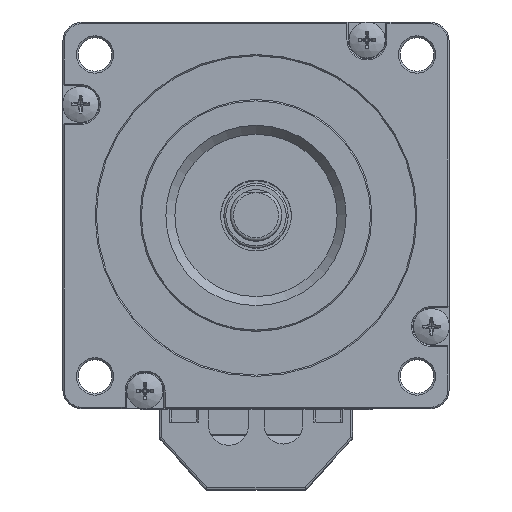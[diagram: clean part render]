
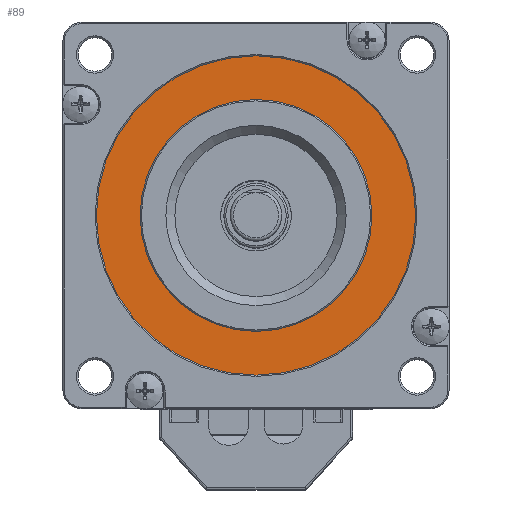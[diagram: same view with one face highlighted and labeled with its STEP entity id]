
A CAD part, top view. The second image highlights one B-rep face of the part: STEP entity #89.
In plain terms, the highlighted planar face has unit normal (0, 0, 1).
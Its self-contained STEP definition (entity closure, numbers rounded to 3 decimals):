
#89 = ADVANCED_FACE ( 'NONE', ( #3777, #18435 ), #7047, .T. ) ;
#713 = DIRECTION ( 'NONE',  ( 1., 0., 0. ) ) ;
#944 = DIRECTION ( 'NONE',  ( 0., 0., 1. ) ) ;
#1097 = CARTESIAN_POINT ( 'NONE',  ( 0., 0., 10.8 ) ) ;
#1382 = CIRCLE ( 'NONE', #3328, 18. ) ;
#2209 = CARTESIAN_POINT ( 'NONE',  ( 24.8, 0., 10.8 ) ) ;
#2782 = ORIENTED_EDGE ( 'NONE', *, *, #16313, .F. ) ;
#3328 = AXIS2_PLACEMENT_3D ( 'NONE', #1097, #944, #16928 ) ;
#3777 = FACE_BOUND ( 'NONE', #21143, .T. ) ;
#3783 = AXIS2_PLACEMENT_3D ( 'NONE', #4260, #16844, #713 ) ;
#3918 = VERTEX_POINT ( 'NONE', #2209 ) ;
#4260 = CARTESIAN_POINT ( 'NONE',  ( 0., 0., 10.8 ) ) ;
#4318 = EDGE_CURVE ( 'NONE', #3918, #3918, #17370, .T. ) ;
#6653 = DIRECTION ( 'NONE',  ( 1., 0., 0. ) ) ;
#7047 = PLANE ( 'NONE',  #7354 ) ;
#7128 = CARTESIAN_POINT ( 'NONE',  ( 18., 0., 10.8 ) ) ;
#7354 = AXIS2_PLACEMENT_3D ( 'NONE', #23272, #12339, #6653 ) ;
#8391 = VERTEX_POINT ( 'NONE', #7128 ) ;
#12339 = DIRECTION ( 'NONE',  ( 0., 0., 1. ) ) ;
#15787 = ORIENTED_EDGE ( 'NONE', *, *, #4318, .T. ) ;
#16313 = EDGE_CURVE ( 'NONE', #8391, #8391, #1382, .T. ) ;
#16844 = DIRECTION ( 'NONE',  ( 0., 0., 1. ) ) ;
#16928 = DIRECTION ( 'NONE',  ( 1., 0., 0. ) ) ;
#17370 = CIRCLE ( 'NONE', #3783, 24.8 ) ;
#18435 = FACE_OUTER_BOUND ( 'NONE', #18879, .T. ) ;
#18879 = EDGE_LOOP ( 'NONE', ( #15787 ) ) ;
#21143 = EDGE_LOOP ( 'NONE', ( #2782 ) ) ;
#23272 = CARTESIAN_POINT ( 'NONE',  ( 0., 0., 10.8 ) ) ;
